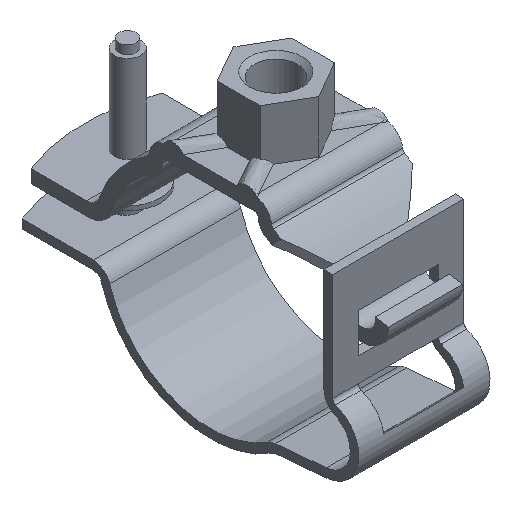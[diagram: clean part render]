
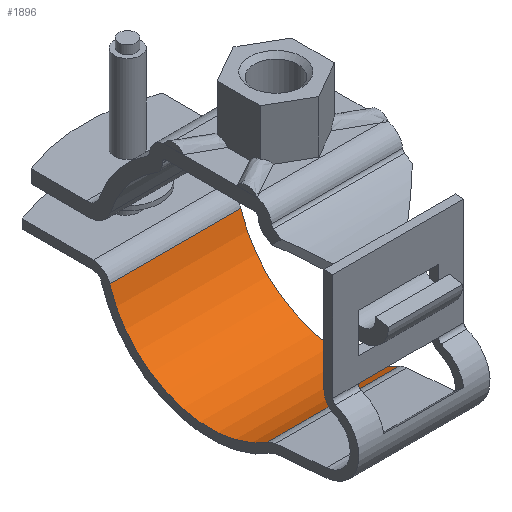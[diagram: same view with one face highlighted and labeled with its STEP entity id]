
A CAD part, isometric view. The second image highlights one B-rep face of the part: STEP entity #1896.
In plain terms, the highlighted cylindrical face has radius 24 mm (diameter 48 mm), a partial arc.
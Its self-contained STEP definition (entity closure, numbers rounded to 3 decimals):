
#178=LINE('',#3210,#333);
#179=LINE('',#3212,#334);
#333=VECTOR('',#2641,30.);
#334=VECTOR('',#2644,30.);
#506=FACE_OUTER_BOUND('',#622,.T.);
#622=EDGE_LOOP('',(#1646,#1647,#1648,#1649));
#710=CIRCLE('',#2075,24.);
#713=CIRCLE('',#2079,24.);
#877=VERTEX_POINT('',#3144);
#878=VERTEX_POINT('',#3146);
#881=VERTEX_POINT('',#3154);
#882=VERTEX_POINT('',#3156);
#1115=EDGE_CURVE('',#877,#878,#710,.T.);
#1120=EDGE_CURVE('',#881,#882,#713,.T.);
#1147=EDGE_CURVE('',#877,#882,#178,.T.);
#1148=EDGE_CURVE('',#878,#881,#179,.T.);
#1646=ORIENTED_EDGE('',*,*,#1147,.T.);
#1647=ORIENTED_EDGE('',*,*,#1120,.F.);
#1648=ORIENTED_EDGE('',*,*,#1148,.F.);
#1649=ORIENTED_EDGE('',*,*,#1115,.F.);
#1697=CYLINDRICAL_SURFACE('',#2100,24.);
#1896=ADVANCED_FACE('',(#506),#1697,.F.);
#2075=AXIS2_PLACEMENT_3D('',#3147,#2568,#2569);
#2079=AXIS2_PLACEMENT_3D('',#3157,#2578,#2579);
#2100=AXIS2_PLACEMENT_3D('',#3211,#2642,#2643);
#2568=DIRECTION('center_axis',(1.,0.,0.));
#2569=DIRECTION('ref_axis',(0.,0.545,0.839));
#2578=DIRECTION('center_axis',(-1.,0.,0.));
#2579=DIRECTION('ref_axis',(0.,0.545,0.839));
#2641=DIRECTION('',(1.,0.,0.));
#2642=DIRECTION('center_axis',(1.,0.,0.));
#2643=DIRECTION('ref_axis',(0.,0.545,0.839));
#2644=DIRECTION('',(1.,0.,0.));
#3144=CARTESIAN_POINT('',(-15.,-13.078,-20.124));
#3146=CARTESIAN_POINT('',(-15.,23.,-6.857));
#3147=CARTESIAN_POINT('Origin',(-15.,0.,0.));
#3154=CARTESIAN_POINT('',(15.,23.,-6.857));
#3156=CARTESIAN_POINT('',(15.,-13.078,-20.124));
#3157=CARTESIAN_POINT('Origin',(15.,0.,0.));
#3210=CARTESIAN_POINT('',(0.,-13.078,-20.124));
#3211=CARTESIAN_POINT('Origin',(0.,0.,0.));
#3212=CARTESIAN_POINT('',(0.,23.,-6.857));
